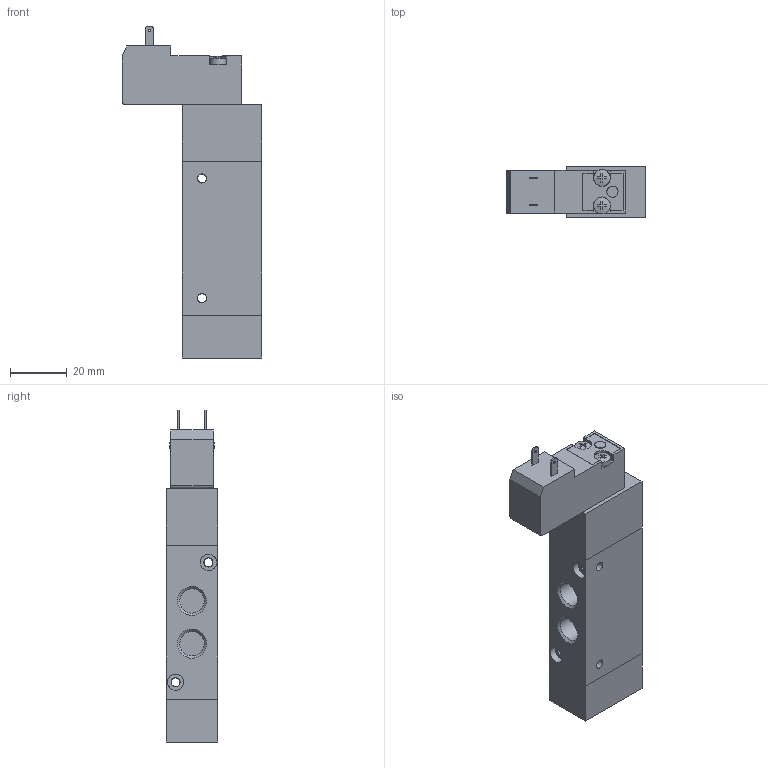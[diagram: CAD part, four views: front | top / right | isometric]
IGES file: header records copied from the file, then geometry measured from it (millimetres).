
Global section: file name: 808_52_0_12_##; native system: Autodesk Inventor 2017; preprocessor: unknown; organization: Pneumax S.p.A.; date: 20180116.111616; units: millimetre
Bounding box: 49 x 18 x 116.49 mm (x, y, z)
Volume: 52982 mm3; surface area: 15685 mm2
Topology: 3 solids, 3 shells, 142 faces, 388 edges, 265 vertices
Faces by surface type: bspline 142
